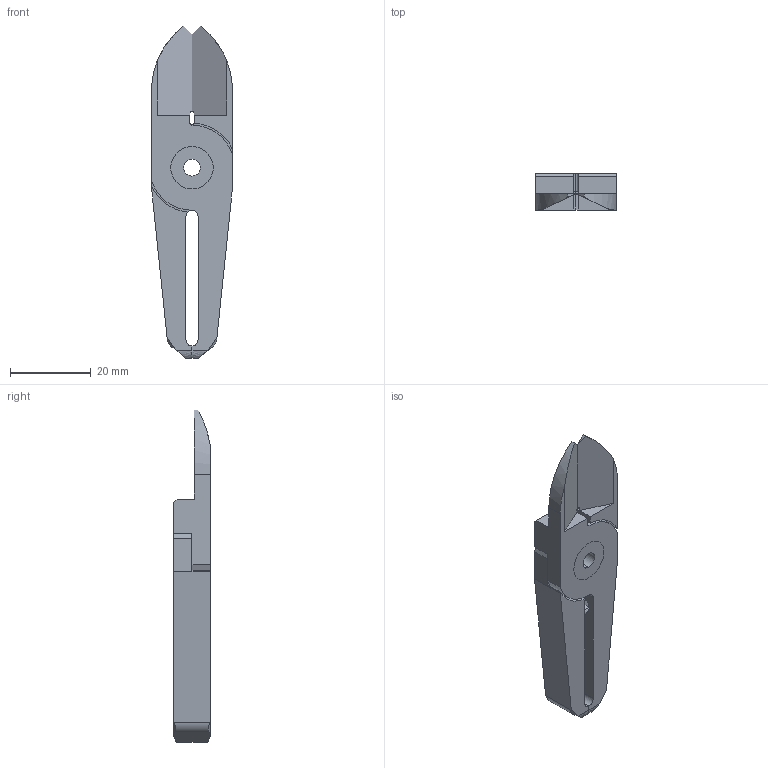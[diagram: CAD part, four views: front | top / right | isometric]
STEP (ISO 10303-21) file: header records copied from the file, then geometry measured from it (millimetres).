
FILE_DESCRIPTION (( 'STEP AP214' ), '1' );
FILE_NAME ('NT10AJY.STEP', '2019-11-28T09:31:40', ( '微软用户' ), ( '微软中国' ), 'SwSTEP 2.0', 'SolidWorks 2016', '' );
FILE_SCHEMA (( 'AUTOMOTIVE_DESIGN' ));
Length unit declared in the file: millimetre
Products named in the file (4): NT10AJY; BR2; BR1; BS
Assembly tree (3 placements, depth 2):
  NT10AJY
    BS
    BR1
    BR2
Bounding box: 20 x 9 x 82 mm (x, y, z)
Volume: 8435.5 mm3; surface area: 6428.6 mm2
Topology: 3 solids, 3 shells, 94 faces, 248 edges, 158 vertices
Faces by surface type: plane 42, cylinder 24, cone 16, bspline 12
Entity records: 3106 total; most frequent: CARTESIAN_POINT 698, ORIENTED_EDGE 488, DIRECTION 458, EDGE_CURVE 244, VERTEX_POINT 158, VECTOR 154, LINE 154, AXIS2_PLACEMENT_3D 152
